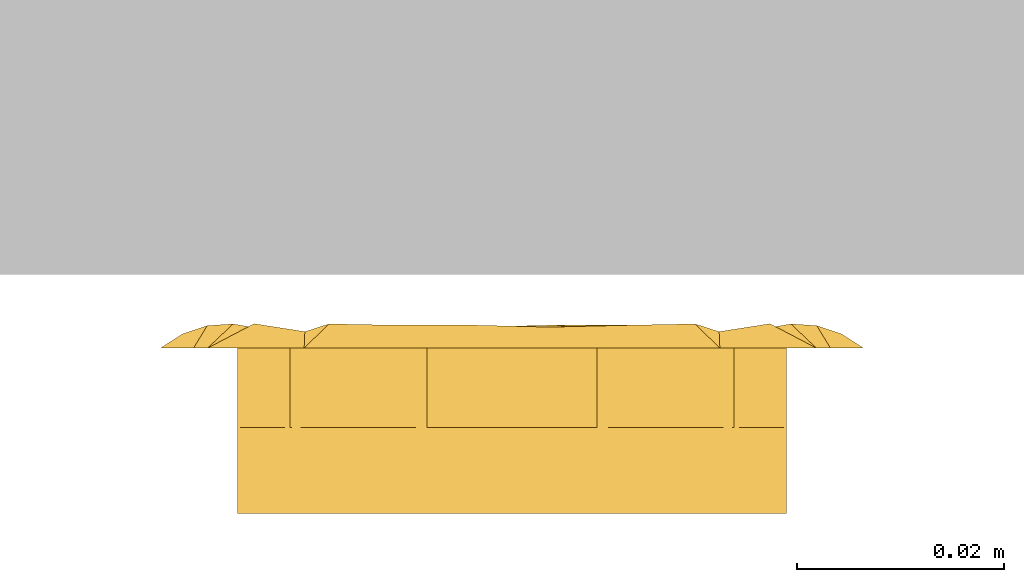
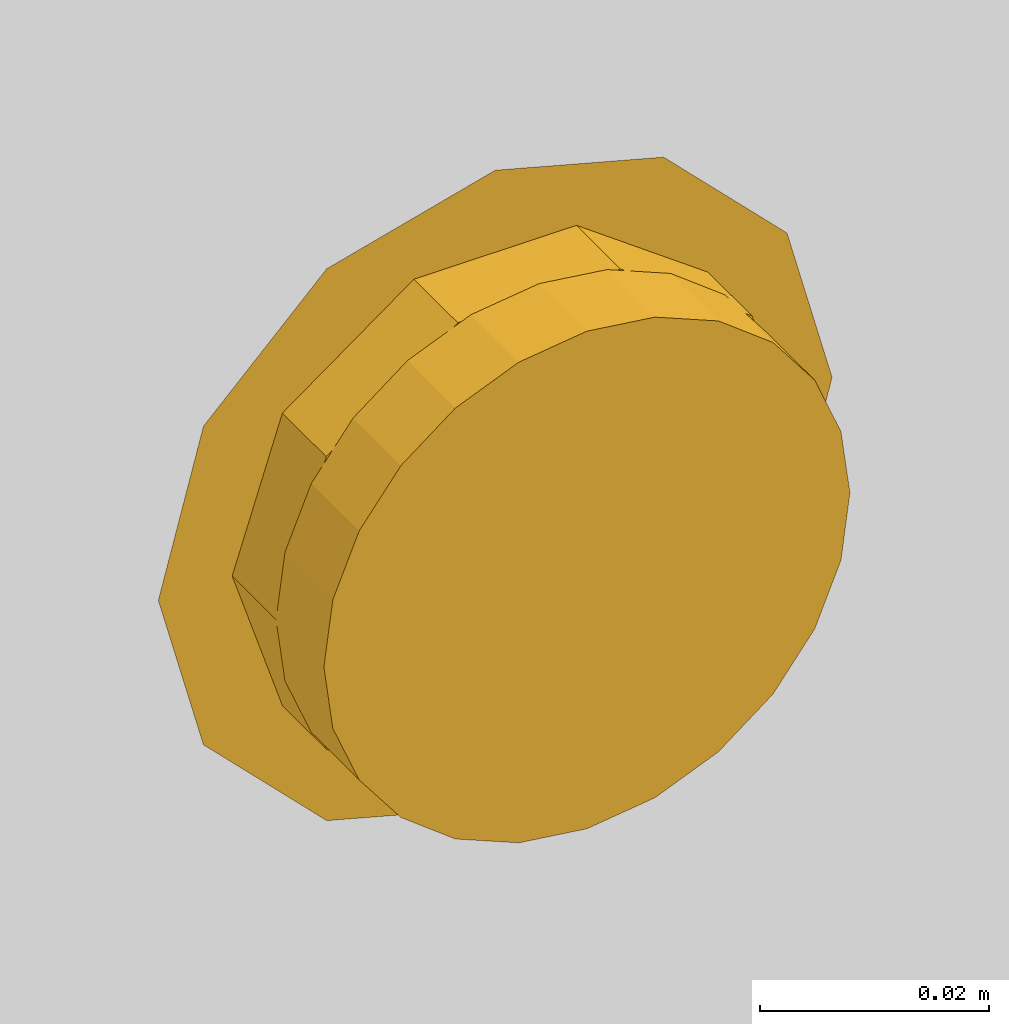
# One storey, part 2 of 2: 1 door.
"""IFC2X3 building model written with IfcOpenShell, lengths in feet."""

from ifc_helpers import new_model, entity, si_unit, converted_unit, derived_unit, direction, frame, origin, place, context, subcontext, project, spatial, faceted_brep, source, transform, mapped, type_object, type_shapes, element, save


model = new_model("IFC2X3")

# Units and contexts
model_context = context("Model", 3, precision=0.0001, world=origin(), true_north=direction((6.12303176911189e-17, 1.0)))
body_context = subcontext(model_context, "Body", "Model", "MODEL_VIEW")
ifc_project = project(units=[converted_unit("LENGTHUNIT", "FOOT", entity("IfcRatioMeasure", 0.3048), si_unit("LENGTHUNIT", "METRE"), dimensions=[1, 0, 0, 0, 0, 0, 0]), converted_unit("AREAUNIT", "SQUARE FOOT", entity("IfcRatioMeasure", 0.09290304), si_unit("AREAUNIT", "SQUARE_METRE"), dimensions=[2, 0, 0, 0, 0, 0, 0]), converted_unit("VOLUMEUNIT", "CUBIC FOOT", entity("IfcRatioMeasure", 0.028316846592), si_unit("VOLUMEUNIT", "CUBIC_METRE"), dimensions=[3, 0, 0, 0, 0, 0, 0]), converted_unit("PLANEANGLEUNIT", "DEGREE", entity("IfcRatioMeasure", 0.0174532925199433), si_unit("PLANEANGLEUNIT", "RADIAN"), dimensions=[0, 0, 0, 0, 0, 0, 0]), si_unit("MASSUNIT", "GRAM", prefix="KILO"), derived_unit("MASSDENSITYUNIT", [(si_unit("MASSUNIT", "GRAM", prefix="KILO"), 1), (si_unit("LENGTHUNIT", "METRE"), -3)]), si_unit("TIMEUNIT", "SECOND"), si_unit("FREQUENCYUNIT", "HERTZ"), si_unit("THERMODYNAMICTEMPERATUREUNIT", "DEGREE_CELSIUS"), derived_unit("THERMALTRANSMITTANCEUNIT", [(si_unit("MASSUNIT", "GRAM", prefix="KILO"), 1), (si_unit("THERMODYNAMICTEMPERATUREUNIT", "KELVIN"), -1), (si_unit("TIMEUNIT", "SECOND"), -3)]), derived_unit("VOLUMETRICFLOWRATEUNIT", [(si_unit("LENGTHUNIT", "METRE"), 3), (si_unit("TIMEUNIT", "SECOND"), -1)]), si_unit("ELECTRICCURRENTUNIT", "AMPERE"), si_unit("ELECTRICVOLTAGEUNIT", "VOLT"), si_unit("POWERUNIT", "WATT"), si_unit("FORCEUNIT", "NEWTON"), si_unit("ILLUMINANCEUNIT", "LUX"), si_unit("LUMINOUSFLUXUNIT", "LUMEN"), si_unit("LUMINOUSINTENSITYUNIT", "CANDELA"), derived_unit("USERDEFINED", [(si_unit("MASSUNIT", "GRAM", prefix="KILO"), -1), (si_unit("LENGTHUNIT", "METRE"), -2), (si_unit("TIMEUNIT", "SECOND"), 3), (si_unit("LUMINOUSFLUXUNIT", "LUMEN"), 1)]), derived_unit("LINEARVELOCITYUNIT", [(si_unit("LENGTHUNIT", "METRE"), 1), (si_unit("TIMEUNIT", "SECOND"), -1)]), si_unit("PRESSUREUNIT", "PASCAL"), derived_unit("USERDEFINED", [(si_unit("LENGTHUNIT", "METRE"), -2), (si_unit("MASSUNIT", "GRAM", prefix="KILO"), 1), (si_unit("TIMEUNIT", "SECOND"), -2)])], contexts=[model_context])

# Site, building, storey
site_placement = place(None, origin())
site = spatial("IfcSite", under=ifc_project, at=site_placement, Name="Default", CompositionType="ELEMENT")
building_placement = place(site_placement, origin())
building = spatial("IfcBuilding", under=site, at=building_placement, CompositionType="ELEMENT")
storey_placement = place(building_placement, origin())
storey = spatial("IfcBuildingStorey", under=building, at=storey_placement, Name="Level 1", CompositionType="ELEMENT", Elevation=0.0)

# Door
door_style = type_object("IfcDoorStyle", Name="dline_Hardware_TomDixonCollection_PullHandles_Flush_Round_35", ConstructionType="NOTDEFINED", OperationType="NOTDEFINED", ParameterTakesPrecedence=False, Sizeable=False)
shared_shape = source(origin(), body_context, "Body", "Brep", [
    faceted_brep([(0.0574146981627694, 0.0, -0.0483326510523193), (0.0486564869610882, -0.0211441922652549, -0.0483326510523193), (0.0585851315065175, -0.0193082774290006, -0.0321473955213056), (-0.105343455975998, -0.0224268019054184, -0.0232342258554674), (-0.100888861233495, -0.0390515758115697, -0.0232342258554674), (-0.0965863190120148, 0.0, -0.0161472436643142), (-0.10441887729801, 0.0, -0.0187544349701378), (0.0584532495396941, 0.0, -0.0401431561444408), (-0.0964342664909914, -0.0556763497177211, -0.0232342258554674), (-0.0817111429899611, -0.0380824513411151, -0.0155243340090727), (-0.0802340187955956, 0.0, -0.0170819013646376), (-0.0486564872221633, -0.0211441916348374, -0.0483326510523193), (-0.057414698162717, 0.0, -0.0483326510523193), (-0.0585851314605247, -0.0193082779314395, -0.032147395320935), (0.0615031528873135, 0.0, -0.0324721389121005), (-0.0883509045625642, 0.0, -0.0155777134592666), (0.0656323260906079, -0.0414654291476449, -0.0180358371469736), (-0.0656323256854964, -0.0414654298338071, -0.0180358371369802), (-0.0760553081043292, -0.0760553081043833, -0.0232342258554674), (-0.108735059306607, 0.0, -0.0215430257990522), (-0.11135269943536, 0.0, -0.0232342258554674), (-0.109850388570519, -0.00560670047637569, -0.0232342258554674), (-0.108348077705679, -0.0112134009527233, -0.0232342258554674), (-0.106576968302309, 0.0, -0.020148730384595), (0.0817111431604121, -0.0380824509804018, -0.0155243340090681), (-0.0615031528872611, 0.0, -0.0324721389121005), (-0.072749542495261, 0.0, -0.0205645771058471), (-0.0663713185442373, 0.0, -0.0258052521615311), (-0.0584532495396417, 0.0, -0.0401431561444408), (0.0529311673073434, -0.0396898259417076, -0.0260323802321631), (0.0405983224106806, -0.0405983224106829, -0.0483326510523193), (-0.0405983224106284, -0.0405983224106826, -0.0483326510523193), (-0.052931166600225, -0.0396898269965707, -0.0260323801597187), (-0.0354059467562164, -0.067555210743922, -0.0186386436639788), (0.109850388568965, -0.00560670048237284, -0.0232342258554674), (0.111352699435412, 0.0, -0.0232342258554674), (0.108735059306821, 0.0, -0.0215430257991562), (0.106576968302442, 0.0, -0.020148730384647), (0.104418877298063, 0.0, -0.0187544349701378), (0.105343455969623, -0.0224268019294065, -0.0232342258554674), (0.108348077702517, -0.0112134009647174, -0.0232342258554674), (-0.0417572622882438, -0.100163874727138, -0.0232342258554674), (-0.0579521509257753, -0.0667277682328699, -0.0155760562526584), (-0.0556763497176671, -0.0964342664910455, -0.0232342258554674), (0.0663713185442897, 0.0, -0.0258052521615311), (0.0760553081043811, -0.0760553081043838, -0.0232342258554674), (0.0354059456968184, -0.0675552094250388, -0.018638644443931), (-0.0658658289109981, -0.0862447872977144, -0.0232342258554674), (0.0965863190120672, 0.0, -0.0161472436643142), (0.0883509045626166, 0.0, -0.0155777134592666), (0.100888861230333, -0.0390515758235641, -0.0232342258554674), (0.0964342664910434, -0.0556763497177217, -0.0232342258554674), (0.0802340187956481, 0.0, -0.0170819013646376), (0.0727495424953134, 0.0, -0.0205645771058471), (0.06586582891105, -0.0862447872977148, -0.0232342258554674), (0.0579521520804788, -0.066727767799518, -0.015576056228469), (-0.0862447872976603, -0.0658658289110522, -0.0232342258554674), (0.0119302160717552, -0.0810240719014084, -0.0165981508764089), (0.0, -0.111352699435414, -0.0232342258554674), (0.0139190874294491, -0.107623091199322, -0.0232342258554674), (0.0278381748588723, -0.10389348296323, -0.0232342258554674), (-0.0365597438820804, -0.0886053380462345, -0.0160106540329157), (-0.0136586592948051, -0.0838843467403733, -0.0159444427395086), (0.0862447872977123, -0.0658658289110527, -0.0232342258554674), (0.03655974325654, -0.0886053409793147, -0.0160106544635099), (0.0417572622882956, -0.100163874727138, -0.0232342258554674), (-0.0108342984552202, -0.0627202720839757, -0.0290916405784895), (0.0, -0.0574146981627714, -0.0483326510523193), (-0.0202991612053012, -0.049006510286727, -0.0483326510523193), (0.00506279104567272, -0.0642680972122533, -0.0280096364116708), (0.0213186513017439, -0.0623591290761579, -0.0263121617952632), (0.0556763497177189, -0.0964342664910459, -0.0232342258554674), (-0.0278381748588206, -0.10389348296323, -0.0232342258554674), (-0.0139190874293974, -0.107623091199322, -0.0232342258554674), (0.0202991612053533, -0.0490065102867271, -0.0483326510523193), (-0.0703377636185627, -0.0511033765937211, -0.0483326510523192), (-0.0703377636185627, -0.0511033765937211, -0.0232342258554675), (-0.0786400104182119, -0.0255516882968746, -0.0232342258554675), (-0.0869422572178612, 0.0, -0.0232342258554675), (-0.0869422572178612, 0.0, -0.0483326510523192), (-0.0813406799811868, -0.0172398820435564, -0.0483326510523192), (-0.0757391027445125, -0.0344797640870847, -0.0483326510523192), (-0.0268666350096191, -0.0826870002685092, -0.0483326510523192), (-0.0268666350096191, -0.0826870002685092, -0.0232342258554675), (-0.0486021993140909, -0.0668951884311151, -0.0232342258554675), (-0.0486021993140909, -0.0668951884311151, -0.0483326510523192), (0.0813406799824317, -0.0172398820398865, -0.0232342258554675), (0.0757391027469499, -0.0344797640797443, -0.0232342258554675), (0.0703377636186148, -0.0511033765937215, -0.0232342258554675), (0.0703377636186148, -0.0511033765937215, -0.0483326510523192), (0.0786400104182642, -0.0255516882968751, -0.0483326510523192), (0.0869422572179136, 0.0, -0.0483326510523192), (0.0869422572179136, 0.0, -0.0232342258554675), (0.0, -0.0826870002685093, -0.0232342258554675), (0.0, -0.0826870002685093, -0.0483326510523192), (0.026866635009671, -0.0826870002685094, -0.0483326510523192), (0.026866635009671, -0.0826870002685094, -0.0232342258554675), (0.0486021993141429, -0.0668951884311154, -0.0232342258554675), (0.0486021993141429, -0.0668951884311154, -0.0483326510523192), (-0.0486564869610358, 0.0211441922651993, -0.0483326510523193), (-0.0585851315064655, 0.0193082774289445, -0.0321473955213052), (0.10534345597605, 0.0224268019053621, -0.0232342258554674), (0.100888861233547, 0.0390515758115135, -0.0232342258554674), (0.0964342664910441, 0.055676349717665, -0.0232342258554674), (0.0817111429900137, 0.038082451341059, -0.0155243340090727), (0.0486564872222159, 0.0211441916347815, -0.0483326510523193), (0.0585851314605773, 0.0193082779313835, -0.032147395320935), (-0.0656323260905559, 0.0414654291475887, -0.0180358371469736), (0.0656323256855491, 0.0414654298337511, -0.0180358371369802), (0.076055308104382, 0.0760553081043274, -0.0232342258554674), (0.109850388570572, 0.0056067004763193, -0.0232342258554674), (0.108348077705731, 0.0112134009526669, -0.0232342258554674), (-0.08171114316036, 0.0380824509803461, -0.0155243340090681), (-0.0529311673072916, 0.0396898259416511, -0.0260323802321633), (-0.0405983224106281, 0.0405983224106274, -0.0483326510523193), (0.0405983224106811, 0.0405983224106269, -0.0483326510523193), (0.0529311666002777, 0.0396898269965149, -0.0260323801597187), (0.0354059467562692, 0.0675552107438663, -0.0186386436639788), (-0.109850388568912, 0.00560670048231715, -0.0232342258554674), (-0.10534345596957, 0.0224268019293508, -0.0232342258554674), (-0.108348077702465, 0.0112134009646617, -0.0232342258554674), (0.0417572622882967, 0.100163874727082, -0.0232342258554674), (0.0579521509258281, 0.066727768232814, -0.0155760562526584), (0.0556763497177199, 0.0964342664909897, -0.0232342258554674), (-0.0760553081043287, 0.0760553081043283, -0.0232342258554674), (-0.0354059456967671, 0.0675552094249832, -0.0186386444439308), (0.065865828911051, 0.0862447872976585, -0.0232342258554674), (-0.100888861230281, 0.0390515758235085, -0.0232342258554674), (-0.096434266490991, 0.0556763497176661, -0.0232342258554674), (-0.0658658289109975, 0.0862447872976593, -0.0232342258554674), (-0.0579521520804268, 0.0667277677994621, -0.015576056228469), (0.0862447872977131, 0.0658658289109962, -0.0232342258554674), (-0.0119302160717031, 0.0810240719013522, -0.0165981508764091), (0.0, 0.111352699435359, -0.0232342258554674), (-0.0139190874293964, 0.107623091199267, -0.0232342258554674), (-0.0278381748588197, 0.103893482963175, -0.0232342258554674), (0.0365597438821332, 0.0886053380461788, -0.0160106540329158), (0.0136586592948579, 0.0838843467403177, -0.0159444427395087), (-0.0862447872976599, 0.0658658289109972, -0.0232342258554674), (-0.0365597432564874, 0.0886053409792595, -0.01601065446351), (-0.041757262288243, 0.100163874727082, -0.0232342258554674), (0.0108342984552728, 0.0627202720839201, -0.0290916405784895), (0.0, 0.0574146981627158, -0.0483326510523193), (0.0202991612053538, 0.0490065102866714, -0.0483326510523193), (-0.00506279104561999, 0.0642680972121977, -0.0280096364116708), (-0.0213186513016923, 0.0623591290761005, -0.0263121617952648), (-0.0556763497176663, 0.0964342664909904, -0.0232342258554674), (0.0278381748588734, 0.103893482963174, -0.0232342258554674), (0.0139190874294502, 0.107623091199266, -0.0232342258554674), (-0.0202991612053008, 0.0490065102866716, -0.0483326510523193), (-0.0786400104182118, 0.0255516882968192, -0.0483326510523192), (-0.0703377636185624, 0.051103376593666, -0.0483326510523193), (-0.0486021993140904, 0.06689518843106, -0.0483326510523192), (-0.0268666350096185, 0.0826870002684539, -0.0483326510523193), (0.0, 0.0826870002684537, -0.0483326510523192), (0.0268666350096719, 0.0826870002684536, -0.0483326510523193), (0.0486021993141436, 0.0668951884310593, -0.0483326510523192), (0.0703377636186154, 0.0511033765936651, -0.0483326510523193), (0.0757391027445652, 0.0344797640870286, -0.0483326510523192), (0.0813406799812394, 0.0172398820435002, -0.0483326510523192), (0.0703377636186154, 0.0511033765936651, -0.0232342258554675), (0.0786400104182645, 0.0255516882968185, -0.0232342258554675), (0.0268666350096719, 0.0826870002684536, -0.0232342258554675), (0.0486021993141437, 0.0668951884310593, -0.0232342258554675), (-0.0813406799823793, 0.0172398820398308, -0.0232342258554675), (-0.0757391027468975, 0.0344797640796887, -0.0232342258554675), (-0.0703377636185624, 0.051103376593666, -0.0232342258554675), (0.0, 0.0826870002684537, -0.0232342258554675), (-0.0268666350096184, 0.0826870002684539, -0.0232342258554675), (-0.0486021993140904, 0.0668951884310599, -0.0232342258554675)], [[[0, 1, 2]], [[3, 4, 5]], [[6, 3, 5]], [[2, 7, 0]], [[8, 9, 10]], [[11, 12, 13]], [[7, 2, 14]], [[10, 15, 8]], [[16, 14, 2]], [[5, 4, 15]], [[17, 9, 18]], [[19, 20, 21, 22, 3, 6, 23]], [[24, 14, 16]], [[13, 25, 17]], [[26, 9, 27]], [[25, 13, 28]], [[29, 2, 1]], [[27, 9, 25]], [[1, 30, 29]], [[31, 32, 33]], [[34, 35, 36, 37, 38, 39, 40]], [[41, 42, 43]], [[24, 44, 14]], [[32, 11, 13]], [[24, 16, 45]], [[30, 46, 29]], [[32, 13, 17]], [[17, 47, 42]], [[48, 49, 50]], [[9, 26, 10]], [[49, 51, 50]], [[28, 13, 12]], [[49, 52, 51]], [[52, 24, 51]], [[16, 2, 29]], [[48, 39, 38]], [[11, 32, 31]], [[53, 44, 24]], [[54, 16, 55]], [[9, 8, 56, 18]], [[52, 53, 24]], [[9, 17, 25]], [[17, 42, 32]], [[57, 58, 59, 60]], [[33, 61, 62]], [[24, 45, 63, 51]], [[32, 42, 33]], [[55, 46, 64]], [[55, 16, 29]], [[64, 57, 60]], [[64, 60, 65]], [[66, 67, 68]], [[69, 57, 70]], [[66, 69, 67]], [[55, 71, 54]], [[41, 61, 42]], [[46, 55, 29]], [[54, 45, 16]], [[62, 72, 73, 58]], [[72, 61, 41]], [[42, 61, 33]], [[57, 62, 58]], [[66, 33, 62]], [[30, 74, 70]], [[55, 64, 65]], [[71, 55, 65]], [[57, 64, 46]], [[47, 17, 18]], [[31, 33, 68]], [[69, 74, 67]], [[47, 43, 42]], [[33, 66, 68]], [[69, 62, 57]], [[62, 69, 66]], [[57, 46, 70]], [[30, 70, 46]], [[74, 69, 70]], [[72, 62, 61]], [[8, 15, 4]], [[39, 48, 50]], [[75, 76, 77, 78, 79, 80, 81]], [[82, 83, 84, 76, 75, 85]], [[86, 87, 88, 89, 90, 91, 92]], [[93, 83, 82, 94, 95, 96]], [[89, 88, 97, 96, 95, 98]], [[12, 99, 100]], [[101, 102, 48]], [[38, 101, 48]], [[100, 28, 12]], [[103, 104, 52]], [[105, 0, 106]], [[28, 100, 25]], [[52, 49, 103]], [[107, 25, 100]], [[48, 102, 49]], [[108, 104, 109]], [[36, 35, 110, 111, 101, 38, 37]], [[112, 25, 107]], [[106, 14, 108]], [[53, 104, 44]], [[14, 106, 7]], [[113, 100, 99]], [[44, 104, 14]], [[99, 114, 113]], [[115, 116, 117]], [[118, 20, 19, 23, 6, 119, 120]], [[121, 122, 123]], [[112, 27, 25]], [[116, 105, 106]], [[112, 107, 124]], [[114, 125, 113]], [[116, 106, 108]], [[108, 126, 122]], [[5, 15, 127]], [[104, 53, 52]], [[15, 128, 127]], [[7, 106, 0]], [[15, 10, 128]], [[10, 112, 128]], [[107, 100, 113]], [[5, 119, 6]], [[105, 116, 115]], [[26, 27, 112]], [[129, 107, 130]], [[104, 103, 131, 109]], [[10, 26, 112]], [[104, 108, 14]], [[108, 122, 116]], [[132, 133, 134, 135]], [[117, 136, 137]], [[112, 124, 138, 128]], [[116, 122, 117]], [[130, 125, 139]], [[130, 107, 113]], [[139, 132, 135]], [[139, 135, 140]], [[141, 142, 143]], [[144, 132, 145]], [[141, 144, 142]], [[130, 146, 129]], [[121, 136, 122]], [[125, 130, 113]], [[129, 124, 107]], [[137, 147, 148, 133]], [[147, 136, 121]], [[122, 136, 117]], [[132, 137, 133]], [[141, 117, 137]], [[114, 149, 145]], [[130, 139, 140]], [[146, 130, 140]], [[132, 139, 125]], [[126, 108, 109]], [[115, 117, 143]], [[144, 149, 142]], [[126, 123, 122]], [[117, 141, 143]], [[144, 137, 132]], [[137, 144, 141]], [[132, 125, 145]], [[114, 145, 125]], [[149, 144, 145]], [[147, 137, 136]], [[103, 49, 102]], [[119, 5, 127]], [[75, 12, 11]], [[12, 75, 81]], [[75, 11, 31]], [[31, 85, 75]], [[12, 81, 80]], [[12, 80, 79]], [[12, 79, 150]], [[12, 150, 151]], [[151, 99, 12]], [[151, 114, 99]], [[114, 151, 152]], [[114, 152, 153]], [[153, 149, 114]], [[153, 142, 149]], [[142, 153, 154]], [[142, 154, 155]], [[155, 143, 142]], [[155, 115, 143]], [[115, 155, 156]], [[115, 156, 157]], [[157, 105, 115]], [[157, 0, 105]], [[0, 157, 158]], [[0, 158, 159]], [[0, 159, 91]], [[0, 91, 90]], [[0, 90, 89]], [[89, 1, 0]], [[89, 30, 1]], [[30, 89, 98]], [[30, 98, 95]], [[95, 74, 30]], [[95, 67, 74]], [[67, 95, 94]], [[67, 94, 82]], [[31, 82, 85]], [[82, 31, 68]], [[82, 68, 67]], [[157, 160, 161, 92, 91, 159, 158]], [[155, 162, 163, 160, 157, 156]], [[164, 165, 166, 151, 150, 79, 78]], [[167, 162, 155, 154, 153, 168]], [[151, 166, 169, 168, 153, 152]], [[8, 78, 77]], [[78, 8, 4]], [[8, 77, 76]], [[76, 56, 8]], [[78, 4, 3]], [[78, 3, 22]], [[78, 22, 21]], [[78, 21, 20]], [[78, 20, 118]], [[78, 118, 120]], [[78, 120, 119]], [[78, 119, 127]], [[78, 127, 128]], [[128, 164, 78]], [[128, 165, 164]], [[128, 166, 165]], [[166, 128, 138]], [[166, 138, 124]], [[166, 124, 129]], [[166, 129, 146]], [[146, 169, 166]], [[146, 168, 169]], [[168, 146, 140]], [[168, 140, 135]], [[168, 135, 134]], [[168, 134, 133]], [[133, 167, 168]], [[133, 162, 167]], [[162, 133, 148]], [[162, 148, 147]], [[162, 147, 121]], [[162, 121, 123]], [[123, 163, 162]], [[123, 160, 163]], [[160, 123, 126]], [[160, 126, 109]], [[160, 109, 131]], [[160, 131, 103]], [[103, 161, 160]], [[103, 92, 161]], [[92, 103, 102]], [[92, 102, 101]], [[92, 101, 111]], [[92, 111, 110]], [[92, 110, 35]], [[92, 35, 34]], [[92, 34, 40]], [[92, 40, 39]], [[92, 39, 50]], [[92, 50, 51]], [[51, 86, 92]], [[51, 87, 86]], [[51, 88, 87]], [[88, 51, 63]], [[88, 63, 45]], [[88, 45, 54]], [[88, 54, 71]], [[71, 97, 88]], [[71, 96, 97]], [[96, 71, 65]], [[96, 65, 60]], [[96, 60, 59]], [[96, 59, 58]], [[58, 93, 96]], [[58, 83, 93]], [[83, 58, 73]], [[83, 73, 72]], [[83, 72, 41]], [[83, 41, 43]], [[76, 43, 47]], [[43, 76, 84]], [[43, 84, 83]], [[76, 47, 18]], [[76, 18, 56]]]),
    faceted_brep([(0.075294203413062, 0.0434711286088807, -0.0483326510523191), (0.0614774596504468, 0.0614774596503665, -0.0483326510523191), (0.0497225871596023, 0.0287073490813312, -0.048332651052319), (0.0554583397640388, 0.014860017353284, -0.048332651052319), (0.0839797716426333, 0.0225023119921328, -0.048332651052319), (0.0405983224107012, 0.0405983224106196, -0.0483326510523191), (0.043471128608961, 0.0752942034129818, -0.0483326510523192), (0.0287073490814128, 0.0497225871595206, -0.0483326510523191), (0.0148600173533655, 0.055458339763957, -0.0483326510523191), (0.0225023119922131, 0.0839797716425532, -0.0483326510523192), (0.0, 0.0574146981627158, -0.0483326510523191), (0.0, 0.0869422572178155, -0.0483326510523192), (-0.0148600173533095, 0.0554583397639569, -0.0483326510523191), (-0.0225023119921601, 0.0839797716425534, -0.0483326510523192), (-0.0287073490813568, 0.0497225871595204, -0.0483326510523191), (-0.0434711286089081, 0.0752942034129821, -0.0483326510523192), (-0.0405983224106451, 0.0405983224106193, -0.0483326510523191), (-0.0614774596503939, 0.0614774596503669, -0.0483326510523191), (-0.0497225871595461, 0.0287073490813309, -0.048332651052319), (-0.0752942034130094, 0.0434711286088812, -0.0483326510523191), (-0.0554583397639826, 0.0148600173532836, -0.048332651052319), (-0.0839797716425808, 0.0225023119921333, -0.048332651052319), (-0.0574146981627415, 0.0, -0.0483326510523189), (-0.0869422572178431, 0.0, -0.0483326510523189), (-0.0554583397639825, -0.0148600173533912, -0.0483326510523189), (-0.0839797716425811, -0.0225023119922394, -0.0483326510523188), (-0.0497225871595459, -0.0287073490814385, -0.0483326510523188), (-0.0752942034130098, -0.0434711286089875, -0.0483326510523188), (-0.0405983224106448, -0.0405983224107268, -0.0483326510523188), (-0.0614774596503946, -0.0614774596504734, -0.0483326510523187), (-0.0287073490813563, -0.0497225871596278, -0.0483326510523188), (-0.0434711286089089, -0.0752942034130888, -0.0483326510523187), (-0.0225023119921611, -0.0839797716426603, -0.0483326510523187), (-0.0148600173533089, -0.0554583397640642, -0.0483326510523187), (0.0, -0.0869422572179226, -0.0483326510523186), (0.0, -0.057414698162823, -0.0483326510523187), (0.0225023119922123, -0.0839797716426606, -0.0483326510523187), (0.0148600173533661, -0.055458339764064, -0.0483326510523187), (0.0434711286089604, -0.0752942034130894, -0.0483326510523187), (0.0287073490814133, -0.0497225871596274, -0.0483326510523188), (0.0614774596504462, -0.0614774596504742, -0.0483326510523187), (0.0405983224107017, -0.0405983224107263, -0.0483326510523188), (0.0752942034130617, -0.0434711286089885, -0.0483326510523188), (0.0497225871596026, -0.0287073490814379, -0.0483326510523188), (0.0839797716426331, -0.0225023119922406, -0.0483326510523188), (0.055458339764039, -0.0148600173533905, -0.0483326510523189), (0.0869422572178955, 0.0, -0.0483326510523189), (0.0574146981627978, 0.0, -0.0483326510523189), (-0.0752942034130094, 0.0434711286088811, -0.065885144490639), (-0.0614774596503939, 0.0614774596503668, -0.0658851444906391), (-0.0497225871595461, 0.0287073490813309, -0.065885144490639), (-0.0554583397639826, 0.0148600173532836, -0.0658851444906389), (-0.0839797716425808, 0.0225023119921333, -0.0658851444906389), (-0.0405983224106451, 0.0405983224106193, -0.065885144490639), (-0.0434711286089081, 0.0752942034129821, -0.0658851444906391), (-0.0287073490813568, 0.0497225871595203, -0.065885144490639), (-0.0148600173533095, 0.0554583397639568, -0.065885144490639), (-0.0225023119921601, 0.0839797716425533, -0.0658851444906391), (0.0, 0.0574146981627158, -0.0658851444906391), (0.0, 0.0869422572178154, -0.0658851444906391), (0.0148600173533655, 0.0554583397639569, -0.065885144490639), (0.0225023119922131, 0.0839797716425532, -0.0658851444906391), (0.0287073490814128, 0.0497225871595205, -0.065885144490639), (0.043471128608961, 0.0752942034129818, -0.0658851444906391), (0.0405983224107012, 0.0405983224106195, -0.065885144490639), (0.0614774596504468, 0.0614774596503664, -0.0658851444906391), (0.0497225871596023, 0.0287073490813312, -0.065885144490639), (0.075294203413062, 0.0434711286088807, -0.065885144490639), (0.0554583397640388, 0.0148600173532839, -0.0658851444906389), (0.0839797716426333, 0.0225023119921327, -0.0658851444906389), (0.0574146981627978, 0.0, -0.0658851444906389), (0.0869422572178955, 0.0, -0.0658851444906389), (0.055458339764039, -0.0148600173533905, -0.0658851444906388), (0.0839797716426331, -0.0225023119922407, -0.0658851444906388), (0.0497225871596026, -0.0287073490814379, -0.0658851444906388), (0.0752942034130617, -0.0434711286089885, -0.0658851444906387), (0.0405983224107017, -0.0405983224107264, -0.0658851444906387), (0.0614774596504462, -0.0614774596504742, -0.0658851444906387), (0.0287073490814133, -0.0497225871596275, -0.0658851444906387), (0.0434711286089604, -0.0752942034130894, -0.0658851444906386), (0.0225023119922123, -0.0839797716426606, -0.0658851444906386), (0.0148600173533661, -0.055458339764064, -0.0658851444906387), (0.0, -0.0869422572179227, -0.0658851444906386), (0.0, -0.057414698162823, -0.0658851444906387), (-0.0225023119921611, -0.0839797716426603, -0.0658851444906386), (-0.0148600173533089, -0.0554583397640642, -0.0658851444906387), (-0.0434711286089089, -0.0752942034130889, -0.0658851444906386), (-0.0287073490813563, -0.0497225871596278, -0.0658851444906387), (-0.0614774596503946, -0.0614774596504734, -0.0658851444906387), (-0.0405983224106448, -0.0405983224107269, -0.0658851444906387), (-0.0752942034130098, -0.0434711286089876, -0.0658851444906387), (-0.0497225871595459, -0.0287073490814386, -0.0658851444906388), (-0.0839797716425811, -0.0225023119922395, -0.0658851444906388), (-0.0554583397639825, -0.0148600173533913, -0.0658851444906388), (-0.0869422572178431, 0.0, -0.0658851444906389), (-0.0574146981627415, 0.0, -0.0658851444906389)], [[[0, 1, 2]], [[0, 2, 3]], [[3, 4, 0]], [[2, 1, 5]], [[6, 5, 1]], [[7, 5, 6]], [[8, 7, 6]], [[8, 6, 9]], [[8, 9, 10]], [[10, 9, 11]], [[12, 10, 11]], [[12, 11, 13]], [[14, 12, 13]], [[14, 13, 15]], [[16, 14, 15]], [[15, 17, 16]], [[17, 18, 16]], [[18, 17, 19]], [[18, 19, 20]], [[21, 20, 19]], [[20, 21, 22]], [[22, 21, 23]], [[23, 24, 22]], [[24, 23, 25]], [[24, 25, 26]], [[27, 26, 25]], [[27, 28, 26]], [[27, 29, 28]], [[30, 28, 29]], [[31, 30, 29]], [[32, 30, 31]], [[33, 30, 32]], [[33, 32, 34]], [[34, 35, 33]], [[36, 35, 34]], [[36, 37, 35]], [[37, 36, 38]], [[39, 37, 38]], [[39, 38, 40]], [[39, 40, 41]], [[40, 42, 41]], [[41, 42, 43]], [[43, 42, 44]], [[44, 45, 43]], [[46, 45, 44]], [[4, 47, 46]], [[45, 46, 47]], [[4, 3, 47]], [[48, 49, 50]], [[48, 50, 51]], [[51, 52, 48]], [[50, 49, 53]], [[54, 53, 49]], [[55, 53, 54]], [[56, 55, 54]], [[56, 54, 57]], [[56, 57, 58]], [[58, 57, 59]], [[60, 58, 59]], [[60, 59, 61]], [[62, 60, 61]], [[62, 61, 63]], [[64, 62, 63]], [[63, 65, 64]], [[65, 66, 64]], [[66, 65, 67]], [[66, 67, 68]], [[69, 68, 67]], [[68, 69, 70]], [[70, 69, 71]], [[71, 72, 70]], [[72, 71, 73]], [[72, 73, 74]], [[75, 74, 73]], [[75, 76, 74]], [[75, 77, 76]], [[78, 76, 77]], [[79, 78, 77]], [[80, 78, 79]], [[81, 78, 80]], [[81, 80, 82]], [[82, 83, 81]], [[84, 83, 82]], [[84, 85, 83]], [[85, 84, 86]], [[87, 85, 86]], [[87, 86, 88]], [[87, 88, 89]], [[88, 90, 89]], [[89, 90, 91]], [[91, 90, 92]], [[92, 93, 91]], [[94, 93, 92]], [[52, 95, 94]], [[93, 94, 95]], [[52, 51, 95]], [[69, 4, 46, 71]], [[67, 0, 4, 69]], [[6, 1, 65, 63]], [[67, 65, 1, 0]], [[9, 6, 63, 61]], [[11, 9, 61, 59]], [[57, 13, 11, 59]], [[54, 15, 13, 57]], [[19, 17, 49, 48]], [[54, 49, 17, 15]], [[21, 19, 48, 52]], [[23, 21, 52, 94]], [[92, 25, 23, 94]], [[90, 27, 25, 92]], [[31, 29, 88, 86]], [[90, 88, 29, 27]], [[32, 31, 86, 84]], [[34, 32, 84, 82]], [[80, 36, 34, 82]], [[79, 38, 36, 80]], [[42, 40, 77, 75]], [[79, 77, 40, 38]], [[44, 42, 75, 73]], [[46, 44, 73, 71]], [[47, 70, 72, 45]], [[45, 72, 74, 43]], [[39, 41, 76, 78]], [[74, 76, 41, 43]], [[37, 39, 78, 81]], [[83, 35, 37, 81]], [[33, 85, 87, 30]], [[30, 87, 89, 28]], [[24, 26, 91, 93]], [[89, 91, 26, 28]], [[22, 24, 93, 95]], [[33, 35, 83, 85]], [[22, 95, 51, 20]], [[20, 51, 50, 18]], [[14, 16, 53, 55]], [[50, 53, 16, 18]], [[12, 14, 55, 56]], [[58, 10, 12, 56]], [[8, 60, 62, 7]], [[7, 62, 64, 5]], [[3, 2, 66, 68]], [[64, 66, 2, 5]], [[47, 3, 68, 70]], [[8, 10, 58, 60]]]),
    faceted_brep([(0.0839797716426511, -0.0225023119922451, -0.0757276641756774), (0.075294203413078, -0.0434711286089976, -0.0757276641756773), (0.0614774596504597, -0.0614774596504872, -0.0757276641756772), (0.0434711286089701, -0.0752942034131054, -0.0757276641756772), (0.0225023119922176, -0.0839797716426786, -0.0757276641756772), (0.0, -0.0869422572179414, -0.0757276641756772), (-0.0225023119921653, -0.0839797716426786, -0.0757276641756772), (-0.0434711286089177, -0.0752942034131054, -0.0757276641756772), (-0.0614774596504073, -0.0614774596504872, -0.0757276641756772), (-0.0752942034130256, -0.0434711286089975, -0.0757276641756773), (-0.0839797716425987, -0.0225023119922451, -0.0757276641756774), (-0.0869422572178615, 0.0, -0.0757276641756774), (-0.0839797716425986, 0.0225023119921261, -0.0757276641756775), (-0.0752942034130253, 0.0434711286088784, -0.0757276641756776), (-0.061477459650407, 0.0614774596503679, -0.0757276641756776), (-0.0434711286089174, 0.0752942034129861, -0.0757276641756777), (-0.0225023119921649, 0.0839797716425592, -0.0757276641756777), (0.0, 0.0869422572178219, -0.0757276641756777), (0.0225023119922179, 0.083979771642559, -0.0757276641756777), (0.0434711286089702, 0.0752942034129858, -0.0757276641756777), (0.0614774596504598, 0.0614774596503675, -0.0757276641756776), (0.075294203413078, 0.0434711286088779, -0.0757276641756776), (0.0839797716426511, 0.0225023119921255, -0.0757276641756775), (0.0869422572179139, 0.0, -0.0757276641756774), (-0.0752942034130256, -0.0434711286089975, -0.0658851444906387), (-0.0614774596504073, -0.0614774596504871, -0.0658851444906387), (-0.0434711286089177, -0.0752942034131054, -0.0658851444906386), (-0.0225023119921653, -0.0839797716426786, -0.0658851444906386), (0.0, -0.0869422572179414, -0.0658851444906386), (0.0225023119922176, -0.0839797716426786, -0.0658851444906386), (0.0434711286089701, -0.0752942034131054, -0.0658851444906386), (0.0614774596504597, -0.0614774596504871, -0.0658851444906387), (0.075294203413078, -0.0434711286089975, -0.0658851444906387), (0.0839797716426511, -0.0225023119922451, -0.0658851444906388), (0.0869422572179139, 0.0, -0.0658851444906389), (0.0839797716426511, 0.0225023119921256, -0.0658851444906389), (0.075294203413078, 0.043471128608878, -0.065885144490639), (0.0614774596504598, 0.0614774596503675, -0.0658851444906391), (0.0434711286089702, 0.0752942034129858, -0.0658851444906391), (0.0225023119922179, 0.083979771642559, -0.0658851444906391), (0.0, 0.0869422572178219, -0.0658851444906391), (-0.0225023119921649, 0.0839797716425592, -0.0658851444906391), (-0.0434711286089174, 0.0752942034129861, -0.0658851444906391), (-0.061477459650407, 0.0614774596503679, -0.0658851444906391), (-0.0752942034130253, 0.0434711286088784, -0.065885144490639), (-0.0839797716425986, 0.0225023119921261, -0.0658851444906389), (-0.0869422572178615, 0.0, -0.0658851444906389), (-0.0839797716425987, -0.0225023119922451, -0.0658851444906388)], [[[0, 1, 2, 3, 4, 5, 6, 7, 8, 9, 10, 11, 12, 13, 14, 15, 16, 17, 18, 19, 20, 21, 22, 23]], [[24, 25, 26, 27, 28, 29, 30, 31, 32, 33, 34, 35, 36, 37, 38, 39, 40, 41, 42, 43, 44, 45, 46, 47]], [[10, 47, 46, 11]], [[9, 24, 47, 10]], [[26, 25, 8, 7]], [[9, 8, 25, 24]], [[27, 26, 7, 6]], [[28, 27, 6, 5]], [[4, 29, 28, 5]], [[3, 30, 29, 4]], [[32, 31, 2, 1]], [[3, 2, 31, 30]], [[33, 32, 1, 0]], [[34, 33, 0, 23]], [[22, 35, 34, 23]], [[21, 36, 35, 22]], [[38, 37, 20, 19]], [[21, 20, 37, 36]], [[39, 38, 19, 18]], [[40, 39, 18, 17]], [[16, 41, 40, 17]], [[15, 42, 41, 16]], [[44, 43, 14, 13]], [[15, 14, 43, 42]], [[45, 44, 13, 12]], [[46, 45, 12, 11]]]),
])
type_shapes(door_style, [shared_shape])
door_placement = place(storey_placement, frame((-3.09996403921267, 5.38808613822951, 3.42169905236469), z_axis=(0.0, 1.0, 0.0), x_axis=(-1.0, 0.0, 0.0)))
element("IfcDoor", 1, at=door_placement, inside=storey, type_object=door_style, Name="12.9010.02.000:dline_Hardware_TomDixonCollection_PullHandles_Flush_Round_35", ObjectType="12.9010.02.000:dline_Hardware_TomDixonCollection_PullHandles_Flush_Round_35", OverallHeight=0.0601499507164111, OverallWidth=0.222705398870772, context=body_context, shape_type="MappedRepresentation", body=[
    mapped(shared_shape, transform((0.0, 0.0, 0.0), scale=1.0)),
])

save(model, "model.ifc")
